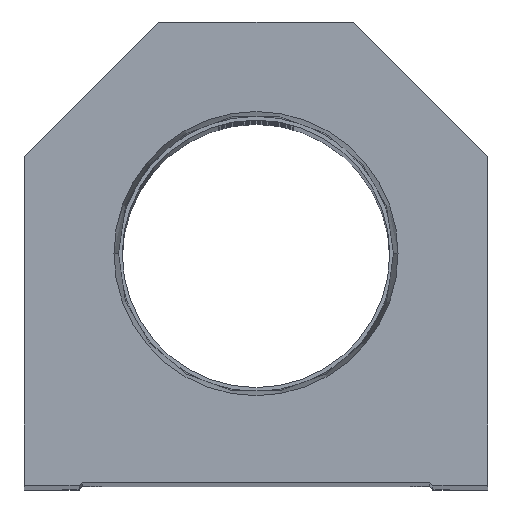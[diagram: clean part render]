
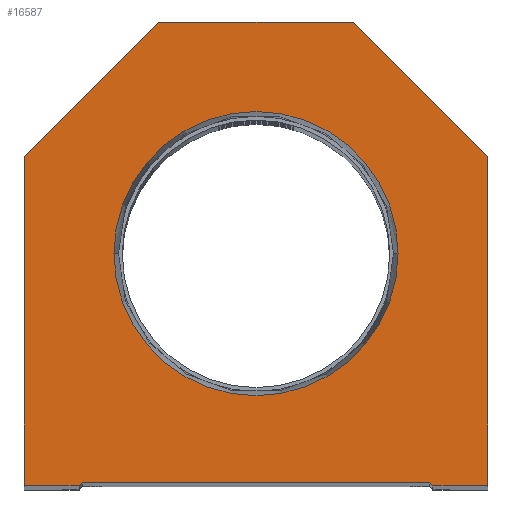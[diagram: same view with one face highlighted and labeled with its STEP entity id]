
A CAD part, top view. The second image highlights one B-rep face of the part: STEP entity #16587.
In plain terms, the highlighted planar face has unit normal (0, 0, 1).
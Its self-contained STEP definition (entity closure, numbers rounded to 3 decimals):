
#130 = CARTESIAN_POINT ( 'NONE',  ( -29.1, 0., 0. ) ) ;
#203 = DIRECTION ( 'NONE',  ( 1., 0., 0. ) ) ;
#288 = EDGE_CURVE ( 'NONE', #16985, #4807, #1598, .T. ) ;
#315 = CARTESIAN_POINT ( 'NONE',  ( -38.1, 54.1, 0. ) ) ;
#376 = VERTEX_POINT ( 'NONE', #2508 ) ;
#408 = VECTOR ( 'NONE', #12257, 1000. ) ;
#415 = EDGE_LOOP ( 'NONE', ( #12148, #13120, #6908, #13859, #16483, #13568, #8750, #2764, #4593, #16320 ) ) ;
#418 = LINE ( 'NONE', #12163, #5481 ) ;
#515 = CIRCLE ( 'NONE', #2720, 23.374 ) ;
#877 = EDGE_CURVE ( 'NONE', #9187, #16985, #11055, .T. ) ;
#926 = VERTEX_POINT ( 'NONE', #8103 ) ;
#1293 = CIRCLE ( 'NONE', #8260, 23.374 ) ;
#1353 = CARTESIAN_POINT ( 'NONE',  ( -28.6, 0.5, 0. ) ) ;
#1598 = LINE ( 'NONE', #11002, #5971 ) ;
#1621 = EDGE_CURVE ( 'NONE', #7998, #376, #515, .T. ) ;
#1718 = VECTOR ( 'NONE', #9717, 1000. ) ;
#1733 = VECTOR ( 'NONE', #3666, 1000. ) ;
#1752 = CARTESIAN_POINT ( 'NONE',  ( -16., 76.2, 0. ) ) ;
#2096 = CARTESIAN_POINT ( 'NONE',  ( 38.1, 0., 0. ) ) ;
#2118 = CARTESIAN_POINT ( 'NONE',  ( 38.1, 54.1, 0. ) ) ;
#2208 = DIRECTION ( 'NONE',  ( 1., 0., 0. ) ) ;
#2212 = CARTESIAN_POINT ( 'NONE',  ( -23.374, 38.1, 0. ) ) ;
#2508 = CARTESIAN_POINT ( 'NONE',  ( 23.374, 38.1, 0. ) ) ;
#2720 = AXIS2_PLACEMENT_3D ( 'NONE', #16459, #9863, #15157 ) ;
#2764 = ORIENTED_EDGE ( 'NONE', *, *, #10791, .T. ) ;
#3630 = LINE ( 'NONE', #10266, #14018 ) ;
#3666 = DIRECTION ( 'NONE',  ( -0.707, -0.707, 0. ) ) ;
#3722 = LINE ( 'NONE', #8783, #7217 ) ;
#3772 = VERTEX_POINT ( 'NONE', #6320 ) ;
#3876 = EDGE_CURVE ( 'NONE', #11765, #5865, #11451, .T. ) ;
#4199 = CARTESIAN_POINT ( 'NONE',  ( 28.6, 0., 0. ) ) ;
#4442 = ORIENTED_EDGE ( 'NONE', *, *, #1621, .F. ) ;
#4593 = ORIENTED_EDGE ( 'NONE', *, *, #5061, .T. ) ;
#4632 = DIRECTION ( 'NONE',  ( 0., 0., 1. ) ) ;
#4807 = VERTEX_POINT ( 'NONE', #130 ) ;
#4984 = AXIS2_PLACEMENT_3D ( 'NONE', #16853, #11634, #2208 ) ;
#5026 = VECTOR ( 'NONE', #10240, 1000. ) ;
#5061 = EDGE_CURVE ( 'NONE', #7155, #9187, #12716, .T. ) ;
#5120 = DIRECTION ( 'NONE',  ( 0.707, 0.707, 0. ) ) ;
#5393 = VECTOR ( 'NONE', #203, 1000. ) ;
#5481 = VECTOR ( 'NONE', #16079, 1000. ) ;
#5865 = VERTEX_POINT ( 'NONE', #9455 ) ;
#5971 = VECTOR ( 'NONE', #6917, 1000. ) ;
#6080 = EDGE_CURVE ( 'NONE', #12936, #11765, #16313, .T. ) ;
#6320 = CARTESIAN_POINT ( 'NONE',  ( 29.1, 0., 0. ) ) ;
#6755 = LINE ( 'NONE', #1353, #7403 ) ;
#6908 = ORIENTED_EDGE ( 'NONE', *, *, #12867, .T. ) ;
#6917 = DIRECTION ( 'NONE',  ( 1., 0., 0. ) ) ;
#6924 = LINE ( 'NONE', #4199, #5393 ) ;
#7041 = CARTESIAN_POINT ( 'NONE',  ( -38.1, 0., 0. ) ) ;
#7071 = DIRECTION ( 'NONE',  ( 1., 0., 0. ) ) ;
#7155 = VERTEX_POINT ( 'NONE', #1752 ) ;
#7217 = VECTOR ( 'NONE', #15649, 1000. ) ;
#7403 = VECTOR ( 'NONE', #16309, 1000. ) ;
#7423 = CARTESIAN_POINT ( 'NONE',  ( 0., 38.1, 0. ) ) ;
#7950 = VERTEX_POINT ( 'NONE', #8294 ) ;
#7998 = VERTEX_POINT ( 'NONE', #2212 ) ;
#8103 = CARTESIAN_POINT ( 'NONE',  ( -28.6, 0.5, 0. ) ) ;
#8260 = AXIS2_PLACEMENT_3D ( 'NONE', #7423, #4632, #7071 ) ;
#8294 = CARTESIAN_POINT ( 'NONE',  ( 28.6, 0.5, 0. ) ) ;
#8750 = ORIENTED_EDGE ( 'NONE', *, *, #3876, .T. ) ;
#8783 = CARTESIAN_POINT ( 'NONE',  ( 14.55, 14.55, 0. ) ) ;
#8848 = FACE_OUTER_BOUND ( 'NONE', #415, .T. ) ;
#9187 = VERTEX_POINT ( 'NONE', #315 ) ;
#9455 = CARTESIAN_POINT ( 'NONE',  ( 16., 76.2, 0. ) ) ;
#9505 = EDGE_CURVE ( 'NONE', #4807, #926, #3630, .T. ) ;
#9717 = DIRECTION ( 'NONE',  ( 0., 1., 0. ) ) ;
#9863 = DIRECTION ( 'NONE',  ( 0., 0., 1. ) ) ;
#9912 = CARTESIAN_POINT ( 'NONE',  ( 38.1, 54.1, 0. ) ) ;
#10146 = ORIENTED_EDGE ( 'NONE', *, *, #14565, .F. ) ;
#10240 = DIRECTION ( 'NONE',  ( -0.707, 0.707, 0. ) ) ;
#10266 = CARTESIAN_POINT ( 'NONE',  ( -14.55, 14.55, 0. ) ) ;
#10791 = EDGE_CURVE ( 'NONE', #5865, #7155, #418, .T. ) ;
#11002 = CARTESIAN_POINT ( 'NONE',  ( -28.6, 0., 0. ) ) ;
#11055 = LINE ( 'NONE', #7041, #408 ) ;
#11322 = CARTESIAN_POINT ( 'NONE',  ( -38.1, 0., 0. ) ) ;
#11335 = EDGE_CURVE ( 'NONE', #3772, #12936, #6924, .T. ) ;
#11451 = LINE ( 'NONE', #2118, #5026 ) ;
#11604 = CARTESIAN_POINT ( 'NONE',  ( -38.1, 54.1, 0. ) ) ;
#11634 = DIRECTION ( 'NONE',  ( 0., 0., 1. ) ) ;
#11765 = VERTEX_POINT ( 'NONE', #9912 ) ;
#12148 = ORIENTED_EDGE ( 'NONE', *, *, #288, .T. ) ;
#12163 = CARTESIAN_POINT ( 'NONE',  ( 16., 76.2, 0. ) ) ;
#12257 = DIRECTION ( 'NONE',  ( 0., -1., 0. ) ) ;
#12716 = LINE ( 'NONE', #11604, #1733 ) ;
#12867 = EDGE_CURVE ( 'NONE', #926, #7950, #6755, .T. ) ;
#12929 = FACE_BOUND ( 'NONE', #14587, .T. ) ;
#12936 = VERTEX_POINT ( 'NONE', #2096 ) ;
#13120 = ORIENTED_EDGE ( 'NONE', *, *, #9505, .T. ) ;
#13568 = ORIENTED_EDGE ( 'NONE', *, *, #6080, .T. ) ;
#13781 = CARTESIAN_POINT ( 'NONE',  ( 38.1, 0., 0. ) ) ;
#13859 = ORIENTED_EDGE ( 'NONE', *, *, #16397, .T. ) ;
#14018 = VECTOR ( 'NONE', #5120, 1000. ) ;
#14565 = EDGE_CURVE ( 'NONE', #376, #7998, #1293, .T. ) ;
#14587 = EDGE_LOOP ( 'NONE', ( #10146, #4442 ) ) ;
#15157 = DIRECTION ( 'NONE',  ( 1., 0., 0. ) ) ;
#15649 = DIRECTION ( 'NONE',  ( 0.707, -0.707, 0. ) ) ;
#16079 = DIRECTION ( 'NONE',  ( -1., 0., 0. ) ) ;
#16309 = DIRECTION ( 'NONE',  ( 1., 0., 0. ) ) ;
#16313 = LINE ( 'NONE', #13781, #1718 ) ;
#16320 = ORIENTED_EDGE ( 'NONE', *, *, #877, .T. ) ;
#16397 = EDGE_CURVE ( 'NONE', #7950, #3772, #3722, .T. ) ;
#16459 = CARTESIAN_POINT ( 'NONE',  ( 0., 38.1, 0. ) ) ;
#16483 = ORIENTED_EDGE ( 'NONE', *, *, #11335, .T. ) ;
#16587 = ADVANCED_FACE ( 'NONE', ( #12929, #8848 ), #16759, .T. ) ;
#16759 = PLANE ( 'NONE',  #4984 ) ;
#16853 = CARTESIAN_POINT ( 'NONE',  ( 0., 0., 0. ) ) ;
#16985 = VERTEX_POINT ( 'NONE', #11322 ) ;
